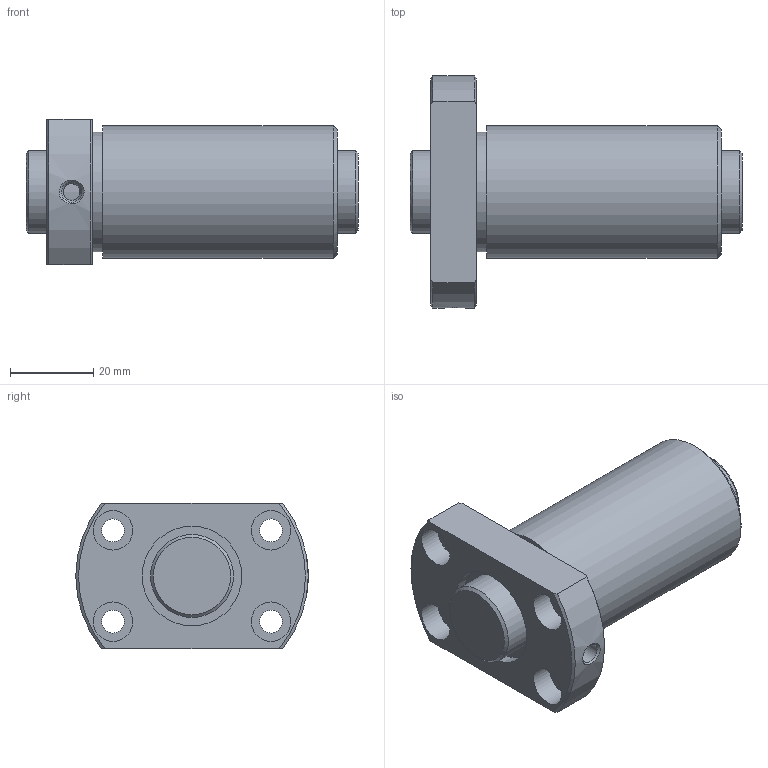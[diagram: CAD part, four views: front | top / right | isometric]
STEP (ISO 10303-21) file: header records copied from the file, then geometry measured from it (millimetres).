
FILE_DESCRIPTION(/* description */ ('STEP AP203'),/* implementation_level */ '2;1');
FILE_NAME(/* name */ 'DIK2004-8RRG0+80LC0_000',/* time_stamp */ '2025-01-13T09:46:54+01:00',/* author */ ('License CC BY-ND 4.0'),/* organization */ ('CADENAS'),/* preprocessor_version */ 'ST-DEVELOPER v19.3',/* originating_system */ 'PARTsolutions',/* authorisation */ ' ');
FILE_SCHEMA (('CONFIG_CONTROL_DESIGN'));
Length unit declared in the file: millimetre
Products named in the file (3): DIK2004-8RRG0+80LC0_000; DIK 2004-8RR08000 Shaft; DIK 2004-8RR Nut
Assembly tree (2 placements, depth 2):
  DIK2004-8RRG0+80LC0_000
    DIK 2004-8RR08000 Shaft
    DIK 2004-8RR Nut
Bounding box: 80 x 56 x 35 mm (x, y, z)
Volume: 67042.1 mm3; surface area: 22040.2 mm2
Topology: 2 solids, 2 shells, 41 faces, 83 edges, 54 vertices
Faces by surface type: cylinder 18, plane 14, cone 9
Full cylindrical faces by diameter (mm): 4 x1, 4.917 x1, 5.5 x4, 9.5 x4, 20 x2, 24 x2, 28.8 x1, 32 x1
Entity records: 1087 total; most frequent: CARTESIAN_POINT 200, DIRECTION 180, ORIENTED_EDGE 120, AXIS2_PLACEMENT_3D 86, EDGE_LOOP 82, FACE_BOUND 82, EDGE_CURVE 60, VERTEX_POINT 52
